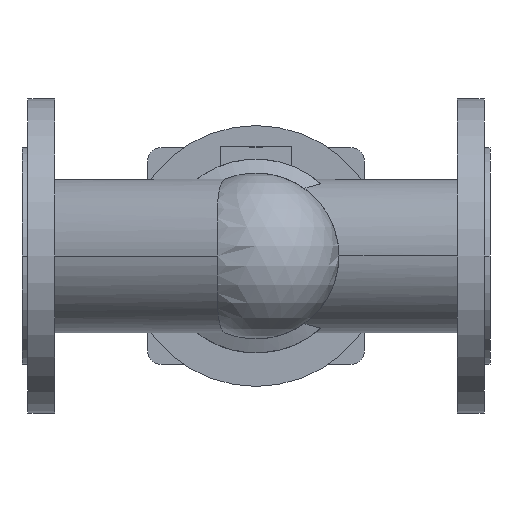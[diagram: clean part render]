
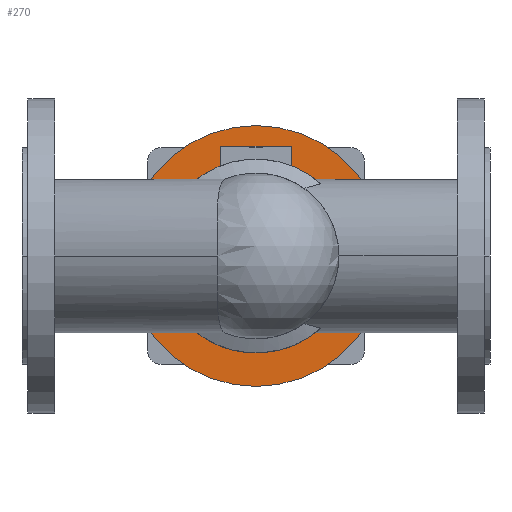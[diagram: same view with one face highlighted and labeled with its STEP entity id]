
A CAD part, front view. The second image highlights one B-rep face of the part: STEP entity #270.
In plain terms, the highlighted planar face has unit normal (0, -1, 0).
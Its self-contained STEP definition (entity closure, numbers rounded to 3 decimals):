
#270 = ADVANCED_FACE( '', ( #678, #679 ), #680, .T. );
#678 = FACE_OUTER_BOUND( '', #1154, .T. );
#679 = FACE_BOUND( '', #1155, .T. );
#680 = PLANE( '', #1156 );
#1154 = EDGE_LOOP( '', ( #2461, #2462 ) );
#1155 = EDGE_LOOP( '', ( #2463, #2464 ) );
#1156 = AXIS2_PLACEMENT_3D( '', #2465, #2466, #2467 );
#2461 = ORIENTED_EDGE( '', *, *, #3066, .T. );
#2462 = ORIENTED_EDGE( '', *, *, #3175, .T. );
#2463 = ORIENTED_EDGE( '', *, *, #2923, .F. );
#2464 = ORIENTED_EDGE( '', *, *, #3289, .F. );
#2465 = CARTESIAN_POINT( '', ( 89.5, 89.3, 0. ) );
#2466 = DIRECTION( '', ( 0., -1., 0. ) );
#2467 = DIRECTION( '', ( -1., 0., 0. ) );
#2923 = EDGE_CURVE( '', #3436, #3439, #3440, .T. );
#3066 = EDGE_CURVE( '', #3715, #3719, #3721, .T. );
#3175 = EDGE_CURVE( '', #3719, #3715, #3902, .T. );
#3289 = EDGE_CURVE( '', #3439, #3436, #4047, .T. );
#3436 = VERTEX_POINT( '', #4359 );
#3439 = VERTEX_POINT( '', #4363 );
#3440 = CIRCLE( '', #4364, 72.5 );
#3715 = VERTEX_POINT( '', #4900 );
#3719 = VERTEX_POINT( '', #4905 );
#3721 = CIRCLE( '', #4908, 97.5 );
#3902 = CIRCLE( '', #5161, 97.5 );
#4047 = CIRCLE( '', #5610, 72.5 );
#4359 = CARTESIAN_POINT( '', ( 102.5, 89.3, 0. ) );
#4363 = CARTESIAN_POINT( '', ( 247.5, 89.3, 0. ) );
#4364 = AXIS2_PLACEMENT_3D( '', #5920, #5921, #5922 );
#4900 = CARTESIAN_POINT( '', ( 272.5, 89.3, 0. ) );
#4905 = CARTESIAN_POINT( '', ( 77.5, 89.3, 0. ) );
#4908 = AXIS2_PLACEMENT_3D( '', #6196, #6197, #6198 );
#5161 = AXIS2_PLACEMENT_3D( '', #6379, #6380, #6381 );
#5610 = AXIS2_PLACEMENT_3D( '', #6632, #6633, #6634 );
#5920 = CARTESIAN_POINT( '', ( 175., 89.3, 0. ) );
#5921 = DIRECTION( '', ( 0., -1., 0. ) );
#5922 = DIRECTION( '', ( -1., 0., 0. ) );
#6196 = CARTESIAN_POINT( '', ( 175., 89.3, 0. ) );
#6197 = DIRECTION( '', ( 0., -1., 0. ) );
#6198 = DIRECTION( '', ( 1., 0., 0. ) );
#6379 = CARTESIAN_POINT( '', ( 175., 89.3, 0. ) );
#6380 = DIRECTION( '', ( 0., -1., 0. ) );
#6381 = DIRECTION( '', ( 1., 0., 0. ) );
#6632 = CARTESIAN_POINT( '', ( 175., 89.3, 0. ) );
#6633 = DIRECTION( '', ( 0., -1., 0. ) );
#6634 = DIRECTION( '', ( -1., 0., 0. ) );
